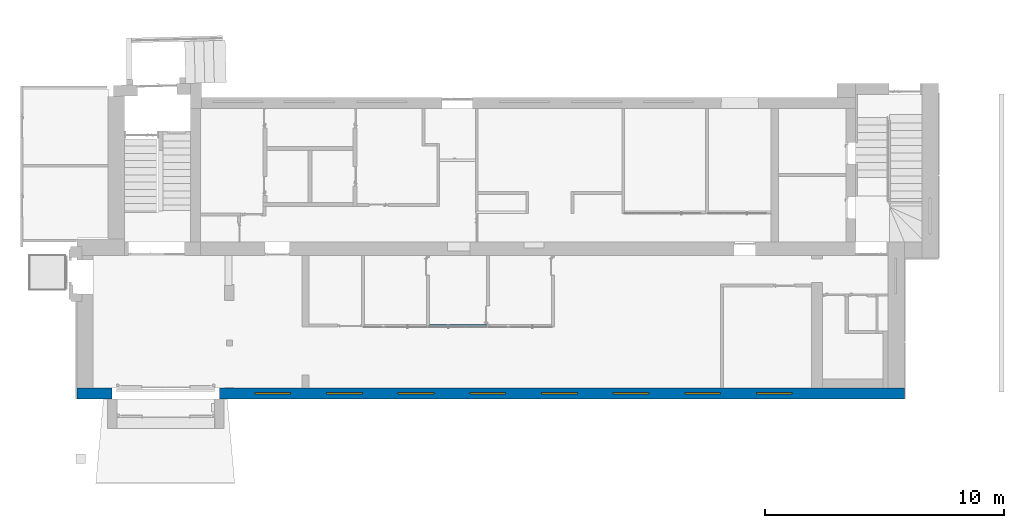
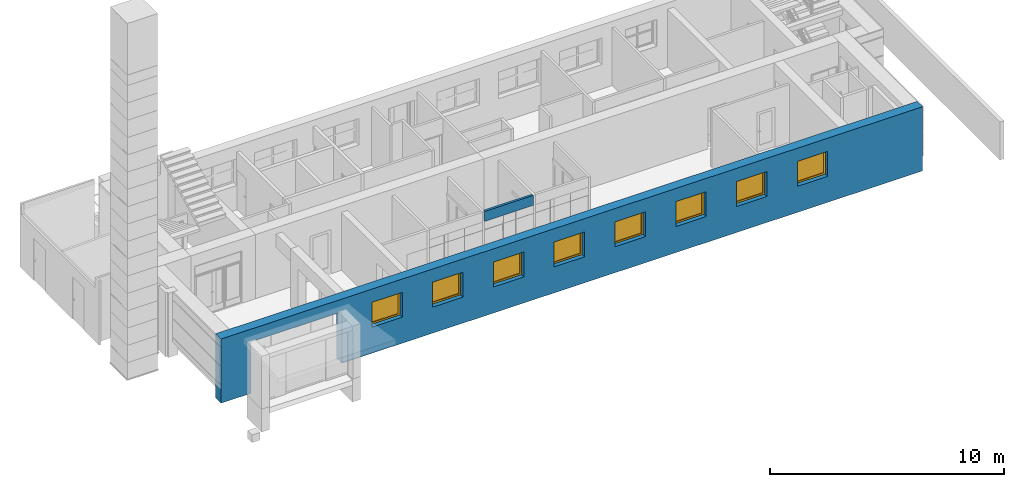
# One storey, part 20 of 49: 8 windows, 2 walls, 10 openings.
"""IFC2X3 building model written with IfcOpenShell, lengths in millimetres."""

from ifc_helpers import new_model, entity, si_unit, converted_unit, derived_unit, direction, frame, frame_2d, origin, origin_2d_with_axis, place, context, subcontext, project, spatial, rectangle, extrude, face_set, surface_model, source, transform, mapped, material, material_list, layer, layer_set, layer_usage, type_object, type_shapes, element, fill, save


model = new_model("IFC2X3")

# Units and contexts
model_context = context("Model", 3, precision=0.01, world=origin(), true_north=direction((6.12303176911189e-17, 1.0)))
body_context = subcontext(model_context, "Body", "Model", "MODEL_VIEW")
ifc_project = project(units=[si_unit("LENGTHUNIT", "METRE", prefix="MILLI"), si_unit("AREAUNIT", "SQUARE_METRE"), si_unit("VOLUMEUNIT", "CUBIC_METRE"), converted_unit("PLANEANGLEUNIT", "DEGREE", entity("IfcRatioMeasure", 0.0174532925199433), si_unit("PLANEANGLEUNIT", "RADIAN"), dimensions=[0, 0, 0, 0, 0, 0, 0]), si_unit("MASSUNIT", "GRAM", prefix="KILO"), derived_unit("MASSDENSITYUNIT", [(si_unit("MASSUNIT", "GRAM", prefix="KILO"), 1), (si_unit("LENGTHUNIT", "METRE"), -3)]), si_unit("TIMEUNIT", "SECOND"), si_unit("FREQUENCYUNIT", "HERTZ"), si_unit("THERMODYNAMICTEMPERATUREUNIT", "DEGREE_CELSIUS"), derived_unit("THERMALTRANSMITTANCEUNIT", [(si_unit("MASSUNIT", "GRAM", prefix="KILO"), 1), (si_unit("THERMODYNAMICTEMPERATUREUNIT", "KELVIN"), -1), (si_unit("TIMEUNIT", "SECOND"), -3)]), derived_unit("VOLUMETRICFLOWRATEUNIT", [(si_unit("LENGTHUNIT", "METRE"), 3), (si_unit("TIMEUNIT", "SECOND"), -1)]), si_unit("ELECTRICCURRENTUNIT", "AMPERE"), si_unit("ELECTRICVOLTAGEUNIT", "VOLT"), si_unit("POWERUNIT", "WATT"), si_unit("FORCEUNIT", "NEWTON", prefix="KILO"), si_unit("ILLUMINANCEUNIT", "LUX"), si_unit("LUMINOUSFLUXUNIT", "LUMEN"), si_unit("LUMINOUSINTENSITYUNIT", "CANDELA"), derived_unit("USERDEFINED", [(si_unit("MASSUNIT", "GRAM", prefix="KILO"), -1), (si_unit("LENGTHUNIT", "METRE"), -2), (si_unit("TIMEUNIT", "SECOND"), 3), (si_unit("LUMINOUSFLUXUNIT", "LUMEN"), 1)]), derived_unit("LINEARVELOCITYUNIT", [(si_unit("LENGTHUNIT", "METRE"), 1), (si_unit("TIMEUNIT", "SECOND"), -1)]), si_unit("PRESSUREUNIT", "PASCAL"), derived_unit("USERDEFINED", [(si_unit("LENGTHUNIT", "METRE"), -2), (si_unit("MASSUNIT", "GRAM", prefix="KILO"), 1), (si_unit("TIMEUNIT", "SECOND"), -2)])], contexts=[model_context])

# Site, building, storey
site_placement = place(None, frame((-151.875543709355, 2715.0, 0.0)))
site = spatial("IfcSite", under=ifc_project, at=site_placement, Name="Surface", CompositionType="ELEMENT")
building_placement = place(site_placement, origin())
building = spatial("IfcBuilding", under=site, at=building_placement, CompositionType="ELEMENT")
storey_placement = place(building_placement, origin())
storey = spatial("IfcBuildingStorey", under=building, at=storey_placement, Name="1 korrus", CompositionType="ELEMENT", Elevation=3.0969999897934e-10)

# Wall, openings, windows
ifc_material_1 = material(Name="Brick, Common")
ifc_layer_1 = layer(ifc_material_1, 440.0)
ifc_material_2 = material(Name="__Kips GN13_tava")
ifc_layer_2 = layer(ifc_material_2, 20.0)
ifc_layer_set_1 = layer_set([ifc_layer_1, ifc_layer_2], Name="Basic Wall:VS-1")
ifc_layer_usage_1 = layer_usage(ifc_layer_set_1, "AXIS2", "NEGATIVE", 230.0)
wall_type_1 = type_object("IfcWallType", Name="Basic Wall:VS-1", PredefinedType="STANDARD", material=ifc_layer_set_1)
wall_1_placement = place(storey_placement, frame((34420.6162682, 229.904632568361, 0.0), z_axis=(0.0, 0.0, 1.0), x_axis=(-1.0, 0.0, 0.0)))
wall_1 = element("IfcWallStandardCase", 1, at=wall_1_placement, inside=storey, type_object=wall_type_1, material=ifc_layer_usage_1, Name="SEIN - 001", ObjectType="Basic Wall:VS-1", context=body_context, shape_type="SweptSolid", body=[
    extrude(rectangle(XDim=34639.7407226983, YDim=460.0, at=frame_2d((17319.8703613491, 0.0), x_axis=(1.0, 0.0))), origin(), (0.0, 0.0, 1.0), 3350.0),
])
opening_1_placement = place(wall_1_placement, origin())
element("IfcOpeningElement", 2, at=opening_1_placement, cuts=wall_1, Name="SEIN - 001", ObjectType="Opening", context=body_context, shape_type="SweptSolid", body=[
    extrude(rectangle(XDim=2685.0, YDim=4490.0, at=origin_2d_with_axis()), frame((30918.5129395, -230.0, 1342.5), z_axis=(0.0, 1.0, 0.0), x_axis=(0.0, 0.0, -1.0)), (0.0, 0.0, 1.0), 460.0),
])
opening_2_placement = place(wall_1_placement, frame((32980.615628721, 230.0, 0.0)))
element("IfcOpeningElement", 3, at=opening_2_placement, cuts=wall_1, Name="Klaasist lükanduksed:SU-19:1", ObjectType="Opening", context=body_context, shape_type="SweptSolid", body=[
    extrude(rectangle(XDim=2540.00000000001, YDim=4120.0, at=frame_2d((1270.0, 2060.0), x_axis=(-1.0, 0.0))), frame((0.0, 0.0, 0.0), z_axis=(0.0, -1.0, 0.0), x_axis=(0.0, 0.0, 1.0)), (0.0, 0.0, 1.0), 460.0),
])
opening_3_placement = place(wall_1_placement, frame((34420.6162682, 229.904632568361, 0.0), z_axis=(0.0, 0.0, 1.0), x_axis=(-1.0, 0.0, 0.0)))
opening_3 = element("IfcOpeningElement", 4, at=opening_3_placement, cuts=wall_1, Name="SEIN - 001", ObjectType="Opening", context=body_context, shape_type="SweptSolid", body=[
    extrude(rectangle(XDim=1300.0, YDim=1500.0, at=frame_2d((0.0, 5.11590769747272e-13), x_axis=(1.0, 0.0))), frame((7980.74126423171, 1063.40463256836, 2010.0), z_axis=(0.0, -1.0, 0.0), x_axis=(0.0, 0.0, -1.0)), (0.0, 0.0, 1.0), 1666.5),
])
opening_4_placement = place(wall_1_placement, frame((34420.6162682, 229.904632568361, 0.0), z_axis=(0.0, 0.0, 1.0), x_axis=(-1.0, 0.0, 0.0)))
opening_4 = element("IfcOpeningElement", 5, at=opening_4_placement, cuts=wall_1, Name="SEIN - 001", ObjectType="Opening", context=body_context, shape_type="SweptSolid", body=[
    extrude(rectangle(XDim=1300.0, YDim=1500.0, at=frame_2d((0.0, -1.08002495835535e-12), x_axis=(1.0, 0.0))), frame((10980.7412642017, 1063.40463256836, 2010.0), z_axis=(0.0, -1.0, 0.0), x_axis=(0.0, 0.0, -1.0)), (0.0, 0.0, 1.0), 1666.5),
])
opening_5_placement = place(wall_1_placement, frame((34420.6162682, 229.904632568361, 0.0), z_axis=(0.0, 0.0, 1.0), x_axis=(-1.0, 0.0, 0.0)))
opening_5 = element("IfcOpeningElement", 6, at=opening_5_placement, cuts=wall_1, Name="SEIN - 001", ObjectType="Opening", context=body_context, shape_type="SweptSolid", body=[
    extrude(rectangle(XDim=1300.0, YDim=1500.0, at=frame_2d((0.0, -2.1600499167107e-12), x_axis=(1.0, 0.0))), frame((13980.7412642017, 1063.40463256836, 2010.0), z_axis=(0.0, -1.0, 0.0), x_axis=(0.0, 0.0, -1.0)), (0.0, 0.0, 1.0), 1666.5),
])
opening_6_placement = place(wall_1_placement, frame((34420.6162682, 229.904632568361, 0.0), z_axis=(0.0, 0.0, 1.0), x_axis=(-1.0, 0.0, 0.0)))
opening_6 = element("IfcOpeningElement", 7, at=opening_6_placement, cuts=wall_1, Name="SEIN - 001", ObjectType="Opening", context=body_context, shape_type="SweptSolid", body=[
    extrude(rectangle(XDim=1300.0, YDim=1500.0, at=origin_2d_with_axis()), frame((16980.7412642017, 1063.40463256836, 2010.0), z_axis=(0.0, -1.0, 0.0), x_axis=(0.0, 0.0, -1.0)), (0.0, 0.0, 1.0), 1666.5),
])
opening_7_placement = place(wall_1_placement, frame((34420.6162682, 229.904632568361, 0.0), z_axis=(0.0, 0.0, 1.0), x_axis=(-1.0, 0.0, 0.0)))
opening_7 = element("IfcOpeningElement", 8, at=opening_7_placement, cuts=wall_1, Name="SEIN - 001", ObjectType="Opening", context=body_context, shape_type="SweptSolid", body=[
    extrude(rectangle(XDim=1300.0, YDim=1500.0, at=frame_2d((0.0, 2.1600499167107e-12), x_axis=(1.0, 0.0))), frame((19980.7412642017, 1063.40463256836, 2010.0), z_axis=(0.0, -1.0, 0.0), x_axis=(0.0, 0.0, -1.0)), (0.0, 0.0, 1.0), 1666.5),
])
opening_8_placement = place(wall_1_placement, frame((34420.6162682, 229.904632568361, 0.0), z_axis=(0.0, 0.0, 1.0), x_axis=(-1.0, 0.0, 0.0)))
opening_8 = element("IfcOpeningElement", 9, at=opening_8_placement, cuts=wall_1, Name="SEIN - 001", ObjectType="Opening", context=body_context, shape_type="SweptSolid", body=[
    extrude(rectangle(XDim=1300.0, YDim=1500.0, at=frame_2d((0.0, 2.1600499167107e-12), x_axis=(1.0, 0.0))), frame((22980.7412642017, 1063.40463256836, 2010.0), z_axis=(0.0, -1.0, 0.0), x_axis=(0.0, 0.0, -1.0)), (0.0, 0.0, 1.0), 1666.5),
])
opening_9_placement = place(wall_1_placement, frame((34420.6162682, 229.904632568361, 0.0), z_axis=(0.0, 0.0, 1.0), x_axis=(-1.0, 0.0, 0.0)))
opening_9 = element("IfcOpeningElement", 10, at=opening_9_placement, cuts=wall_1, Name="SEIN - 001", ObjectType="Opening", context=body_context, shape_type="SweptSolid", body=[
    extrude(rectangle(XDim=1300.0, YDim=1500.0, at=frame_2d((0.0, -2.1600499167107e-12), x_axis=(1.0, 0.0))), frame((25980.7412642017, 1063.40463256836, 2010.0), z_axis=(0.0, -1.0, 0.0), x_axis=(0.0, 0.0, -1.0)), (0.0, 0.0, 1.0), 1666.5),
])
opening_10_placement = place(wall_1_placement, frame((34420.6162682, 229.904632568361, 0.0), z_axis=(0.0, 0.0, 1.0), x_axis=(-1.0, 0.0, 0.0)))
opening_10 = element("IfcOpeningElement", 11, at=opening_10_placement, cuts=wall_1, Name="SEIN - 001", ObjectType="Opening", context=body_context, shape_type="SweptSolid", body=[
    extrude(rectangle(XDim=1300.0, YDim=1500.0, at=frame_2d((0.0, 2.1600499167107e-12), x_axis=(1.0, 0.0))), frame((28980.7412642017, 1063.40463256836, 2010.0), z_axis=(0.0, -1.0, 0.0), x_axis=(0.0, 0.0, -1.0)), (0.0, 0.0, 1.0), 1666.5),
])
ifc_material_3 = material(Name="Paint - Dark Gray")
ifc_material_4 = material(Name="Paint - Titanium White")
ifc_material_5 = material(Name="Glass - Clear Fast")
ifc_material_list_1 = material_list([ifc_material_3, ifc_material_4, ifc_material_5])
ifc_material_list_2 = material_list([ifc_material_3, ifc_material_4, ifc_material_5])
window_style = type_object("IfcWindowStyle", Name="Aken_1300x1500", ConstructionType="NOTDEFINED", OperationType="SINGLE_PANEL", ParameterTakesPrecedence=False, Sizeable=False, material=ifc_material_list_2)
shared_shape = source(origin(), body_context, "Body", "SurfaceModel", [
    surface_model("IfcFaceBasedSurfaceModel", [(80.0, 808.0, 1220.0), (80.0, 853.0, 1220.0), (0.0, 853.0, 1220.0), (0.0, 808.0, 1220.0), (80.0, 808.0, 80.0), (80.0, 853.0, 80.0), (80.0, 853.0, 1220.0), (80.0, 808.0, 1220.0), (80.0, 853.0, 1220.0), (80.0, 853.0, 80.0), (0.0, 853.0, 80.0), (0.0, 853.0, 1220.0), (0.0, 808.0, 1220.0), (0.0, 853.0, 1220.0), (0.0, 853.0, 80.0), (0.0, 808.0, 80.0), (80.0, 808.0, 1220.0), (0.0, 808.0, 1220.0), (0.0, 808.0, 80.0), (80.0, 808.0, 80.0), (0.0, 808.0, 80.0), (0.0, 853.0, 80.0), (80.0, 853.0, 80.0), (80.0, 808.0, 80.0), (1420.0, 808.0, 80.0), (1420.0, 853.0, 80.0), (1500.0, 853.0, 80.0), (1500.0, 808.0, 80.0), (1420.0, 808.0, 1220.0), (1420.0, 853.0, 1220.0), (1420.0, 853.0, 80.0), (1420.0, 808.0, 80.0), (1420.0, 853.0, 80.0), (1420.0, 853.0, 1220.0), (1500.0, 853.0, 1220.0), (1500.0, 853.0, 80.0), (1500.0, 808.0, 80.0), (1500.0, 853.0, 80.0), (1500.0, 853.0, 1220.0), (1500.0, 808.0, 1220.0), (1420.0, 808.0, 80.0), (1500.0, 808.0, 80.0), (1500.0, 808.0, 1220.0), (1420.0, 808.0, 1220.0), (1500.0, 808.0, 1220.0), (1500.0, 853.0, 1220.0), (1420.0, 853.0, 1220.0), (1420.0, 808.0, 1220.0), (80.0, 808.0, 80.0), (80.0, 853.0, 80.0), (0.0, 853.0, 80.0), (0.0, 808.0, 80.0), (1420.0, 808.0, 80.0), (1420.0, 853.0, 80.0), (80.0, 853.0, 80.0), (80.0, 808.0, 80.0), (80.0, 853.0, 80.0), (1420.0, 853.0, 80.0), (1500.0, 853.0, 80.0), (1500.0, 853.0, 0.0), (0.0, 853.0, 0.0), (0.0, 853.0, 80.0), (0.0, 808.0, 80.0), (0.0, 853.0, 80.0), (0.0, 853.0, 0.0), (0.0, 808.0, 0.0), (80.0, 808.0, 80.0), (0.0, 808.0, 80.0), (0.0, 808.0, 0.0), (1500.0, 808.0, 0.0), (1500.0, 808.0, 80.0), (1420.0, 808.0, 80.0), (1500.0, 808.0, 80.0), (1500.0, 853.0, 80.0), (1420.0, 853.0, 80.0), (1420.0, 808.0, 80.0), (1500.0, 808.0, 0.0), (1500.0, 853.0, 0.0), (1500.0, 853.0, 80.0), (1500.0, 808.0, 80.0), (0.0, 808.0, 0.0), (0.0, 853.0, 0.0), (1500.0, 853.0, 0.0), (1500.0, 808.0, 0.0), (1420.0, 808.0, 1220.0), (1420.0, 853.0, 1220.0), (1500.0, 853.0, 1220.0), (1500.0, 808.0, 1220.0), (80.0, 808.0, 1220.0), (80.0, 853.0, 1220.0), (1420.0, 853.0, 1220.0), (1420.0, 808.0, 1220.0), (1420.0, 853.0, 1220.0), (80.0, 853.0, 1220.0), (0.0, 853.0, 1220.0), (0.0, 853.0, 1300.0), (1500.0, 853.0, 1300.0), (1500.0, 853.0, 1220.0), (1500.0, 808.0, 1220.0), (1500.0, 853.0, 1220.0), (1500.0, 853.0, 1300.0), (1500.0, 808.0, 1300.0), (1420.0, 808.0, 1220.0), (1500.0, 808.0, 1220.0), (1500.0, 808.0, 1300.0), (0.0, 808.0, 1300.0), (0.0, 808.0, 1220.0), (80.0, 808.0, 1220.0), (0.0, 808.0, 1220.0), (0.0, 853.0, 1220.0), (80.0, 853.0, 1220.0), (80.0, 808.0, 1220.0), (0.0, 808.0, 1300.0), (0.0, 853.0, 1300.0), (0.0, 853.0, 1220.0), (0.0, 808.0, 1220.0), (1500.0, 808.0, 1300.0), (1500.0, 853.0, 1300.0), (0.0, 853.0, 1300.0), (0.0, 808.0, 1300.0)], [face_set([[[0, 1, 2, 3]]]), face_set([[[4, 5, 6, 7]]]), face_set([[[8, 9, 10, 11]]]), face_set([[[12, 13, 14, 15]]]), face_set([[[16, 17, 18, 19]]]), face_set([[[20, 21, 22, 23]]]), face_set([[[24, 25, 26, 27]]]), face_set([[[28, 29, 30, 31]]]), face_set([[[32, 33, 34, 35]]]), face_set([[[36, 37, 38, 39]]]), face_set([[[40, 41, 42, 43]]]), face_set([[[44, 45, 46, 47]]]), face_set([[[48, 49, 50, 51]]]), face_set([[[52, 53, 54, 55]]]), face_set([[[56, 57, 58, 59, 60, 61]]]), face_set([[[62, 63, 64, 65]]]), face_set([[[66, 67, 68, 69, 70, 71]]]), face_set([[[72, 73, 74, 75]]]), face_set([[[76, 77, 78, 79]]]), face_set([[[80, 81, 82, 83]]]), face_set([[[84, 85, 86, 87]]]), face_set([[[88, 89, 90, 91]]]), face_set([[[92, 93, 94, 95, 96, 97]]]), face_set([[[98, 99, 100, 101]]]), face_set([[[102, 103, 104, 105, 106, 107]]]), face_set([[[108, 109, 110, 111]]]), face_set([[[112, 113, 114, 115]]]), face_set([[[116, 117, 118, 119]]])]),
    surface_model("IfcFaceBasedSurfaceModel", [(80.0, 853.0, 1220.0), (80.0, 878.0, 1220.0), (0.0, 878.0, 1220.0), (0.0, 853.0, 1220.0), (80.0, 853.0, 80.0), (80.0, 878.0, 80.0), (80.0, 878.0, 1220.0), (80.0, 853.0, 1220.0), (80.0, 878.0, 1220.0), (80.0, 878.0, 80.0), (0.0, 878.0, 80.0), (0.0, 878.0, 1220.0), (0.0, 853.0, 1220.0), (0.0, 878.0, 1220.0), (0.0, 878.0, 80.0), (0.0, 853.0, 80.0), (80.0, 853.0, 1220.0), (0.0, 853.0, 1220.0), (0.0, 853.0, 80.0), (80.0, 853.0, 80.0), (0.0, 853.0, 80.0), (0.0, 878.0, 80.0), (80.0, 878.0, 80.0), (80.0, 853.0, 80.0), (1420.0, 853.0, 80.0), (1420.0, 878.0, 80.0), (1500.0, 878.0, 80.0), (1500.0, 853.0, 80.0), (1420.0, 853.0, 1220.0), (1420.0, 878.0, 1220.0), (1420.0, 878.0, 80.0), (1420.0, 853.0, 80.0), (1420.0, 878.0, 80.0), (1420.0, 878.0, 1220.0), (1500.0, 878.0, 1220.0), (1500.0, 878.0, 80.0), (1500.0, 853.0, 80.0), (1500.0, 878.0, 80.0), (1500.0, 878.0, 1220.0), (1500.0, 853.0, 1220.0), (1420.0, 853.0, 80.0), (1500.0, 853.0, 80.0), (1500.0, 853.0, 1220.0), (1420.0, 853.0, 1220.0), (1500.0, 853.0, 1220.0), (1500.0, 878.0, 1220.0), (1420.0, 878.0, 1220.0), (1420.0, 853.0, 1220.0), (80.0, 853.0, 80.0), (80.0, 878.0, 80.0), (0.0, 878.0, 80.0), (0.0, 853.0, 80.0), (1420.0, 853.0, 80.0), (1420.0, 878.0, 80.0), (80.0, 878.0, 80.0), (80.0, 853.0, 80.0), (80.0, 878.0, 80.0), (1420.0, 878.0, 80.0), (1500.0, 878.0, 80.0), (1500.0, 878.0, 0.0), (0.0, 878.0, 0.0), (0.0, 878.0, 80.0), (0.0, 853.0, 80.0), (0.0, 878.0, 80.0), (0.0, 878.0, 0.0), (0.0, 853.0, 0.0), (80.0, 853.0, 80.0), (0.0, 853.0, 80.0), (0.0, 853.0, 0.0), (1500.0, 853.0, 0.0), (1500.0, 853.0, 80.0), (1420.0, 853.0, 80.0), (1500.0, 853.0, 80.0), (1500.0, 878.0, 80.0), (1420.0, 878.0, 80.0), (1420.0, 853.0, 80.0), (1500.0, 853.0, 0.0), (1500.0, 878.0, 0.0), (1500.0, 878.0, 80.0), (1500.0, 853.0, 80.0), (0.0, 853.0, 0.0), (0.0, 878.0, 0.0), (1500.0, 878.0, 0.0), (1500.0, 853.0, 0.0), (1420.0, 853.0, 1220.0), (1420.0, 878.0, 1220.0), (1500.0, 878.0, 1220.0), (1500.0, 853.0, 1220.0), (80.0, 853.0, 1220.0), (80.0, 878.0, 1220.0), (1420.0, 878.0, 1220.0), (1420.0, 853.0, 1220.0), (1420.0, 878.0, 1220.0), (80.0, 878.0, 1220.0), (0.0, 878.0, 1220.0), (0.0, 878.0, 1300.0), (1500.0, 878.0, 1300.0), (1500.0, 878.0, 1220.0), (1500.0, 853.0, 1220.0), (1500.0, 878.0, 1220.0), (1500.0, 878.0, 1300.0), (1500.0, 853.0, 1300.0), (1420.0, 853.0, 1220.0), (1500.0, 853.0, 1220.0), (1500.0, 853.0, 1300.0), (0.0, 853.0, 1300.0), (0.0, 853.0, 1220.0), (80.0, 853.0, 1220.0), (0.0, 853.0, 1220.0), (0.0, 878.0, 1220.0), (80.0, 878.0, 1220.0), (80.0, 853.0, 1220.0), (0.0, 853.0, 1300.0), (0.0, 878.0, 1300.0), (0.0, 878.0, 1220.0), (0.0, 853.0, 1220.0), (1500.0, 853.0, 1300.0), (1500.0, 878.0, 1300.0), (0.0, 878.0, 1300.0), (0.0, 853.0, 1300.0)], [face_set([[[0, 1, 2, 3]]]), face_set([[[4, 5, 6, 7]]]), face_set([[[8, 9, 10, 11]]]), face_set([[[12, 13, 14, 15]]]), face_set([[[16, 17, 18, 19]]]), face_set([[[20, 21, 22, 23]]]), face_set([[[24, 25, 26, 27]]]), face_set([[[28, 29, 30, 31]]]), face_set([[[32, 33, 34, 35]]]), face_set([[[36, 37, 38, 39]]]), face_set([[[40, 41, 42, 43]]]), face_set([[[44, 45, 46, 47]]]), face_set([[[48, 49, 50, 51]]]), face_set([[[52, 53, 54, 55]]]), face_set([[[56, 57, 58, 59, 60, 61]]]), face_set([[[62, 63, 64, 65]]]), face_set([[[66, 67, 68, 69, 70, 71]]]), face_set([[[72, 73, 74, 75]]]), face_set([[[76, 77, 78, 79]]]), face_set([[[80, 81, 82, 83]]]), face_set([[[84, 85, 86, 87]]]), face_set([[[88, 89, 90, 91]]]), face_set([[[92, 93, 94, 95, 96, 97]]]), face_set([[[98, 99, 100, 101]]]), face_set([[[102, 103, 104, 105, 106, 107]]]), face_set([[[108, 109, 110, 111]]]), face_set([[[112, 113, 114, 115]]]), face_set([[[116, 117, 118, 119]]])]),
    surface_model("IfcFaceBasedSurfaceModel", [(80.0, 843.0, 80.0), (1420.0, 843.0, 80.0), (1420.0, 843.0, 1220.0), (80.0, 843.0, 1220.0), (80.0, 863.0, 80.0), (80.0, 863.0, 1220.0), (1420.0, 863.0, 1220.0), (1420.0, 863.0, 80.0)], [face_set([[[0, 1, 2, 3]]]), face_set([[[4, 5, 6, 7]]])]),
])
type_shapes(window_style, [shared_shape])
window_1_placement = place(opening_3_placement, frame((7230.74126423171, -603.095367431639, 1360.0)))
window_1 = element("IfcWindow", 12, at=window_1_placement, inside=storey, type_object=window_style, material=ifc_material_list_1, Name="Aken_1300x1500:Aken_1300x1500", ObjectType="Aken_1300x1500", OverallHeight=1500.0, OverallWidth=1300.0, context=body_context, shape_type="MappedRepresentation", body=[
    mapped(shared_shape, transform((0.0, 0.0, 0.0), scale=1.0)),
])
fill(opening_3, window_1)
ifc_material_list_3 = material_list([ifc_material_3, ifc_material_4, ifc_material_5])
window_2_placement = place(opening_4_placement, frame((10230.7412642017, -603.095367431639, 1360.0)))
window_2 = element("IfcWindow", 13, at=window_2_placement, inside=storey, type_object=window_style, material=ifc_material_list_3, Name="Aken_1300x1500:Aken_1300x1500", ObjectType="Aken_1300x1500", OverallHeight=1500.0, OverallWidth=1300.0, context=body_context, shape_type="MappedRepresentation", body=[
    mapped(shared_shape, transform((0.0, 0.0, 0.0), scale=1.0)),
])
fill(opening_4, window_2)
ifc_material_list_4 = material_list([ifc_material_3, ifc_material_4, ifc_material_5])
window_3_placement = place(opening_5_placement, frame((13230.7412642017, -603.095367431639, 1360.0)))
window_3 = element("IfcWindow", 14, at=window_3_placement, inside=storey, type_object=window_style, material=ifc_material_list_4, Name="Aken_1300x1500:Aken_1300x1500", ObjectType="Aken_1300x1500", OverallHeight=1500.0, OverallWidth=1300.0, context=body_context, shape_type="MappedRepresentation", body=[
    mapped(shared_shape, transform((0.0, 0.0, 0.0), scale=1.0)),
])
fill(opening_5, window_3)
ifc_material_list_5 = material_list([ifc_material_3, ifc_material_4, ifc_material_5])
window_4_placement = place(opening_6_placement, frame((16230.7412642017, -603.095367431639, 1360.0)))
window_4 = element("IfcWindow", 15, at=window_4_placement, inside=storey, type_object=window_style, material=ifc_material_list_5, Name="Aken_1300x1500:Aken_1300x1500", ObjectType="Aken_1300x1500", OverallHeight=1500.0, OverallWidth=1300.0, context=body_context, shape_type="MappedRepresentation", body=[
    mapped(shared_shape, transform((0.0, 0.0, 0.0), scale=1.0)),
])
fill(opening_6, window_4)
ifc_material_list_6 = material_list([ifc_material_3, ifc_material_4, ifc_material_5])
window_5_placement = place(opening_7_placement, frame((19230.7412642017, -603.095367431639, 1360.0)))
window_5 = element("IfcWindow", 16, at=window_5_placement, inside=storey, type_object=window_style, material=ifc_material_list_6, Name="Aken_1300x1500:Aken_1300x1500", ObjectType="Aken_1300x1500", OverallHeight=1500.0, OverallWidth=1300.0, context=body_context, shape_type="MappedRepresentation", body=[
    mapped(shared_shape, transform((0.0, 0.0, 0.0), scale=1.0)),
])
fill(opening_7, window_5)
ifc_material_list_7 = material_list([ifc_material_3, ifc_material_4, ifc_material_5])
window_6_placement = place(opening_8_placement, frame((22230.7412642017, -603.095367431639, 1360.0)))
window_6 = element("IfcWindow", 17, at=window_6_placement, inside=storey, type_object=window_style, material=ifc_material_list_7, Name="Aken_1300x1500:Aken_1300x1500", ObjectType="Aken_1300x1500", OverallHeight=1500.0, OverallWidth=1300.0, context=body_context, shape_type="MappedRepresentation", body=[
    mapped(shared_shape, transform((0.0, 0.0, 0.0), scale=1.0)),
])
fill(opening_8, window_6)
ifc_material_list_8 = material_list([ifc_material_3, ifc_material_4, ifc_material_5])
window_7_placement = place(opening_9_placement, frame((25230.7412642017, -603.095367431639, 1360.0)))
window_7 = element("IfcWindow", 18, at=window_7_placement, inside=storey, type_object=window_style, material=ifc_material_list_8, Name="Aken_1300x1500:Aken_1300x1500", ObjectType="Aken_1300x1500", OverallHeight=1500.0, OverallWidth=1300.0, context=body_context, shape_type="MappedRepresentation", body=[
    mapped(shared_shape, transform((0.0, 0.0, 0.0), scale=1.0)),
])
fill(opening_9, window_7)
ifc_material_list_9 = material_list([ifc_material_3, ifc_material_4, ifc_material_5])
window_8_placement = place(opening_10_placement, frame((28230.7412642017, -603.095367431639, 1360.0)))
window_8 = element("IfcWindow", 19, at=window_8_placement, inside=storey, type_object=window_style, material=ifc_material_list_9, Name="Aken_1300x1500:Aken_1300x1500", ObjectType="Aken_1300x1500", OverallHeight=1500.0, OverallWidth=1300.0, context=body_context, shape_type="MappedRepresentation", body=[
    mapped(shared_shape, transform((0.0, 0.0, 0.0), scale=1.0)),
])
fill(opening_10, window_8)

# Wall
ifc_layer_3 = layer(ifc_material_2, 12.5)
ifc_layer_4 = layer(ifc_material_2, 12.5)
ifc_material_6 = material(Name="__Soojustus EPS")
ifc_layer_5 = layer(ifc_material_6, 66.0)
ifc_layer_6 = layer(ifc_material_2, 12.5)
ifc_layer_7 = layer(ifc_material_2, 12.5)
ifc_layer_set_2 = layer_set([ifc_layer_3, ifc_layer_4, ifc_layer_5, ifc_layer_6, ifc_layer_7], Name="Basic Wall:SS-3_Kipssein tava ruumide vahel")
ifc_layer_usage_2 = layer_usage(ifc_layer_set_2, "AXIS2", "NEGATIVE", 58.0)
wall_type_2 = type_object("IfcWallType", Name="Basic Wall:SS-3_Kipssein tava ruumide vahel", PredefinedType="STANDARD", material=ifc_layer_set_2)
wall_2_placement = place(storey_placement, frame((14538.2710850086, 3065.5, 2500.0)))
element("IfcWallStandardCase", 20, at=wall_2_placement, inside=storey, type_object=wall_type_2, material=ifc_layer_usage_2, Name="Basic Wall:SS-3_Kipssein tava ruumide vahel", ObjectType="Basic Wall:SS-3_Kipssein tava ruumide vahel", context=body_context, shape_type="SweptSolid", body=[
    extrude(rectangle(XDim=2399.99999999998, YDim=116.0, at=frame_2d((1199.99999999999, -5.32907051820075e-14), x_axis=(-1.0, 0.0))), origin(), (0.0, 0.0, 1.0), 520.0),
])

save(model, "model.ifc")
